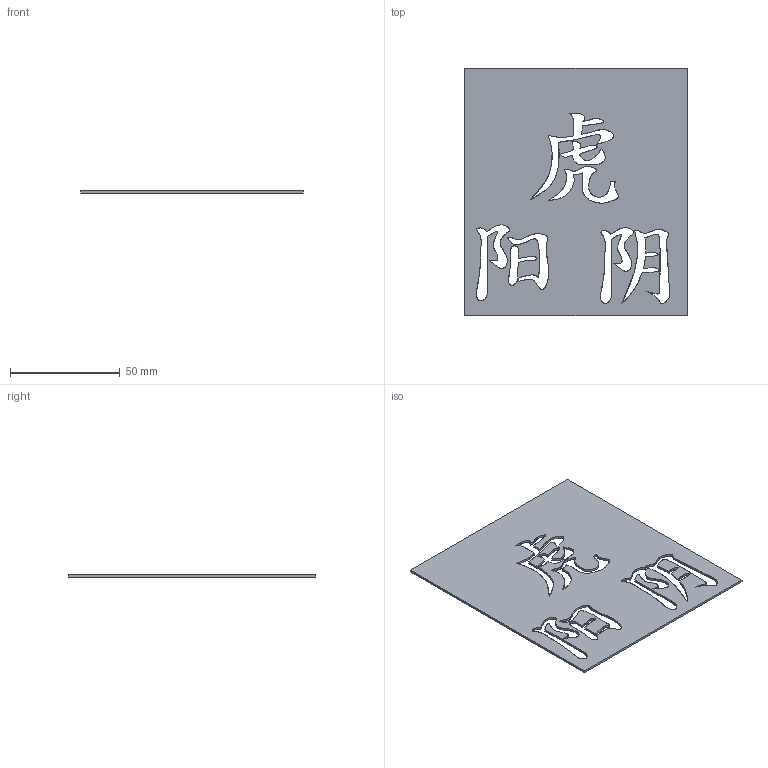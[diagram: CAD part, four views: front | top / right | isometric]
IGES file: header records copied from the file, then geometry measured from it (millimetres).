
Start section: SolidWorks IGES file using analytic representation for surfaces
Global section: file name: C:\TEMP\Neuer Ordner\Musterblech 2.IGS; native system: SolidWorks 2006 by SolidWorks Corporation; preprocessor: SolidWorks 2006 by SolidWorks Corporation; author: hobein; date: 070323.081542; units: millimetre
Bounding box: 101.52 x 112.72 x 1 mm (x, y, z)
Surface area: 21467.7 mm2 (no closed solid volume)
Topology: 0 solids, 0 shells, 68 faces, 2684 edges, 2684 vertices
Faces by surface type: bspline 55, revolution 13
